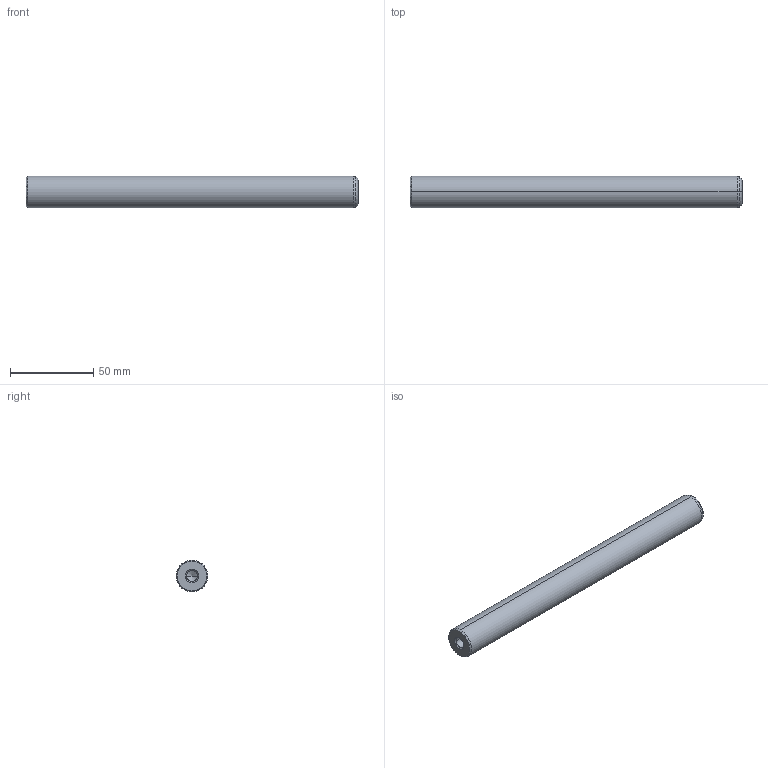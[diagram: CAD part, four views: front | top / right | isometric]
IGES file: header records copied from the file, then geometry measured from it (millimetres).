
Start section: START RECORD GO HERE.
Global section: file name: 720-19x200.igs; native system: DASSAULT SYSTEMES CATIA V5 R20 - www.3ds.com; preprocessor: CATIA Version 5 Release 20 ; author: Utente; organization: NB04-ASUS; date: 20210101.140534; units: millimetre
Bounding box: 200 x 19 x 19 mm (x, y, z)
Surface area: 13403.3 mm2 (no closed solid volume)
Topology: 0 solids, 0 shells, 22 faces, 108 edges, 104 vertices
Faces by surface type: revolution 20, plane 2
